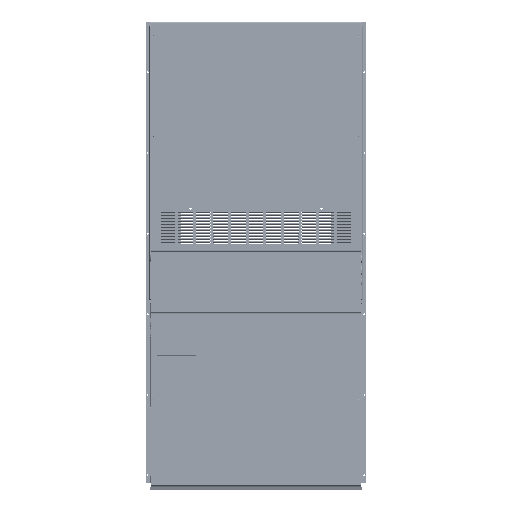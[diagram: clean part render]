
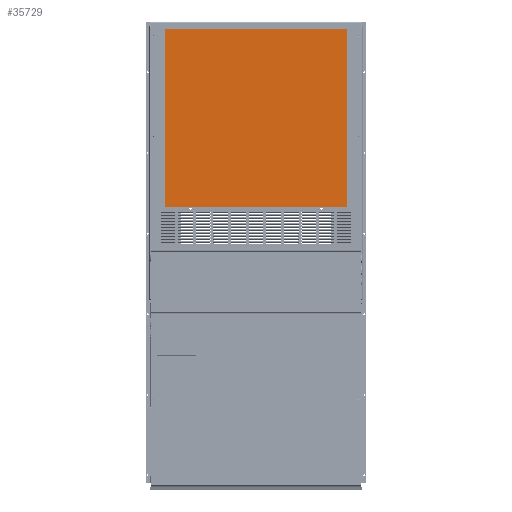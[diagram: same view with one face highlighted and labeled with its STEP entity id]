
A CAD part, left-side view. The second image highlights one B-rep face of the part: STEP entity #35729.
In plain terms, the highlighted planar face has unit normal (-1, 0, 0) as drawn and (0, 0, 1) by its records, which use the part's own axes.
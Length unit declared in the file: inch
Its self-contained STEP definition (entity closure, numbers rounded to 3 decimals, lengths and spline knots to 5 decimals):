
#6279 = CARTESIAN_POINT ( 'NONE',  ( 18.27786, -12.05233, 0.028 ) ) ;
#16914 = VERTEX_POINT ( 'NONE', #81133 ) ;
#23786 = VERTEX_POINT ( 'NONE', #196956 ) ;
#24955 = EDGE_LOOP ( 'NONE', ( #59587, #153507, #93381, #169989 ) ) ;
#33346 = AXIS2_PLACEMENT_3D ( 'NONE', #119867, #147123, #43291 ) ;
#35729 = ADVANCED_FACE ( 'NONE', ( #135567 ), #55911, .T. ) ;
#37529 = VECTOR ( 'NONE', #51419, 39.37008 ) ;
#43291 = DIRECTION ( 'NONE',  ( 1., 0., 0. ) ) ;
#43863 = EDGE_CURVE ( 'NONE', #16914, #23786, #136817, .T. ) ;
#47540 = CARTESIAN_POINT ( 'NONE',  ( 18.27786, -12.05233, 0.028 ) ) ;
#51419 = DIRECTION ( 'NONE',  ( 0., 1., 0. ) ) ;
#54031 = DIRECTION ( 'NONE',  ( 0., -1., 0. ) ) ;
#55911 = PLANE ( 'NONE',  #33346 ) ;
#56406 = LINE ( 'NONE', #179085, #168861 ) ;
#59587 = ORIENTED_EDGE ( 'NONE', *, *, #82086, .T. ) ;
#67665 = VECTOR ( 'NONE', #54031, 39.37008 ) ;
#80913 = VERTEX_POINT ( 'NONE', #179350 ) ;
#81133 = CARTESIAN_POINT ( 'NONE',  ( -17.97214, 23.39802, 0.028 ) ) ;
#82086 = EDGE_CURVE ( 'NONE', #185009, #80913, #85993, .T. ) ;
#85993 = LINE ( 'NONE', #6279, #37529 ) ;
#87911 = EDGE_CURVE ( 'NONE', #23786, #185009, #197340, .T. ) ;
#93381 = ORIENTED_EDGE ( 'NONE', *, *, #43863, .T. ) ;
#99884 = CARTESIAN_POINT ( 'NONE',  ( 18.27786, -12.05233, 0.028 ) ) ;
#115578 = DIRECTION ( 'NONE',  ( 1., 0., 0. ) ) ;
#117964 = CARTESIAN_POINT ( 'NONE',  ( -17.97214, -12.05233, 0.028 ) ) ;
#119867 = CARTESIAN_POINT ( 'NONE',  ( 0., 0., 0.028 ) ) ;
#135567 = FACE_OUTER_BOUND ( 'NONE', #24955, .T. ) ;
#136817 = LINE ( 'NONE', #117964, #67665 ) ;
#147123 = DIRECTION ( 'NONE',  ( 0., 0., 1. ) ) ;
#153507 = ORIENTED_EDGE ( 'NONE', *, *, #186243, .T. ) ;
#163366 = DIRECTION ( 'NONE',  ( -1., 0., 0. ) ) ;
#164556 = VECTOR ( 'NONE', #115578, 39.37008 ) ;
#168861 = VECTOR ( 'NONE', #163366, 39.37008 ) ;
#169989 = ORIENTED_EDGE ( 'NONE', *, *, #87911, .T. ) ;
#179085 = CARTESIAN_POINT ( 'NONE',  ( 18.27786, 23.39802, 0.028 ) ) ;
#179350 = CARTESIAN_POINT ( 'NONE',  ( 18.27786, 23.39802, 0.028 ) ) ;
#185009 = VERTEX_POINT ( 'NONE', #47540 ) ;
#186243 = EDGE_CURVE ( 'NONE', #80913, #16914, #56406, .T. ) ;
#196956 = CARTESIAN_POINT ( 'NONE',  ( -17.97214, -12.05233, 0.028 ) ) ;
#197340 = LINE ( 'NONE', #99884, #164556 ) ;
